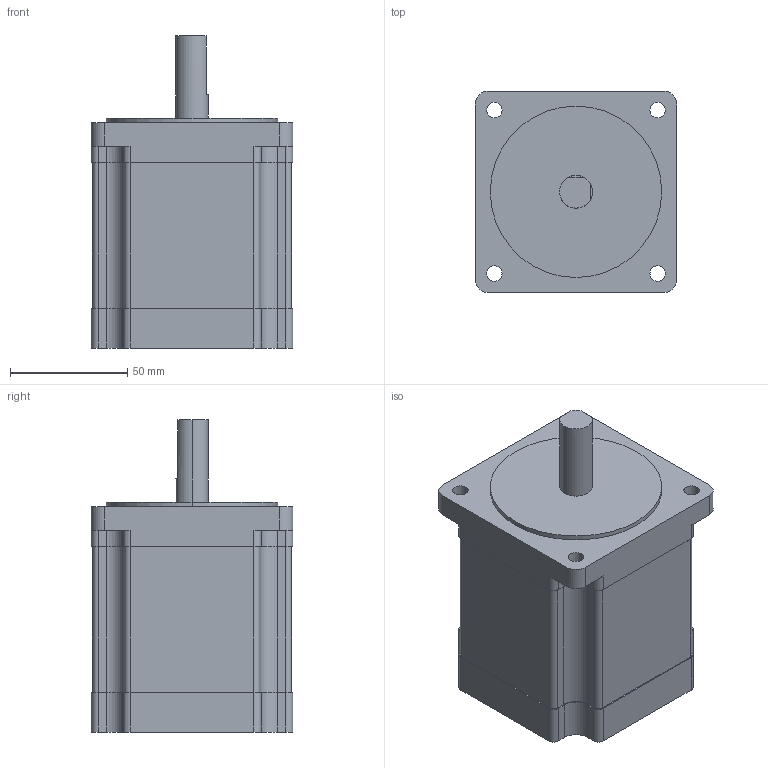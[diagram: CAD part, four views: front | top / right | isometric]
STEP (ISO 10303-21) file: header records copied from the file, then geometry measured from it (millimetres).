
FILE_DESCRIPTION (( 'STEP AP214' ), '1' );
FILE_NAME ('EXMK299-02A.STEP', '2016-09-09T06:09:04', ( 'hoho' ), ( '' ), 'SwSTEP 2.0', 'SolidWorks 2013', '' );
FILE_SCHEMA (( 'AUTOMOTIVE_DESIGN' ));
Length unit declared in the file: millimetre
Products named in the file (1): EXMK299-02A
Bounding box: 85.8 x 85.8 x 133 mm (x, y, z)
Volume: 648305.5 mm3; surface area: 48264.9 mm2
Topology: 1 solids, 1 shells, 102 faces, 288 edges, 192 vertices
Faces by surface type: cylinder 52, plane 50
Entity records: 3676 total; most frequent: DIRECTION 602, CARTESIAN_POINT 583, ORIENTED_EDGE 576, EDGE_CURVE 288, AXIS2_PLACEMENT_3D 211, VERTEX_POINT 192, VECTOR 180, LINE 180
